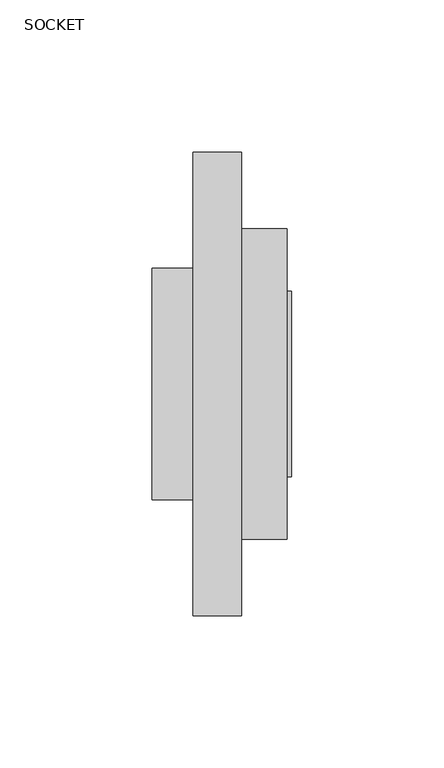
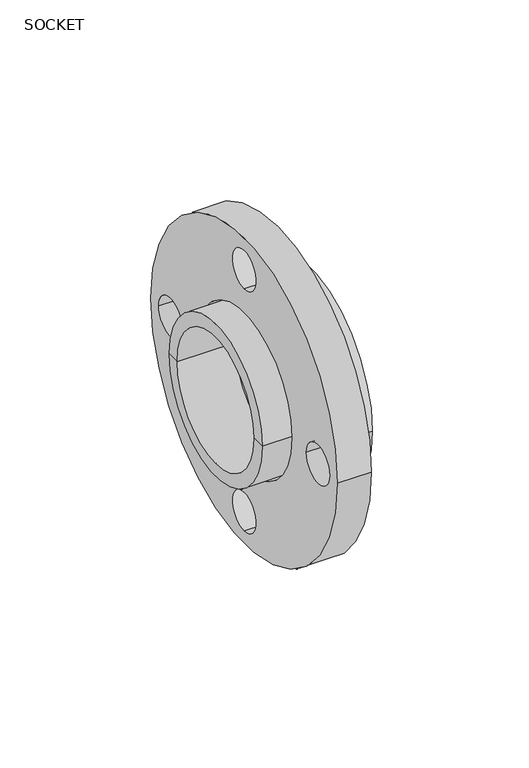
"""IFC4 building model written with IfcOpenShell, lengths in millimetres: valve geometry, Aquatherm - Flange Adapter Socket : SOCKET."""

from ifc_helpers import new_model, si_unit, point, frame, frame_2d, origin, origin_2d, place, context, project, spatial, polyline, circle_curve, trimmed, segment, composite_curve, outline, extrude, source, transform, mapped, element, save
from ifc_brep_helpers import plane_surface, cylinder_surface, revolved_surface, advanced_brep


def socket_e33d789c(model_context):
    return source(origin(), model_context, "Body", "SolidModel", [
        extrude(outline(composite_curve([segment(trimmed(circle_curve(origin_2d(), 76.2), [point((76.2, 0.0))], [point((-76.2, 0.0))], False, "CARTESIAN"), True, "CONTINUOUS"), segment(trimmed(circle_curve(origin_2d(), 76.2), [point((-76.2, 0.0))], [point((76.2, 0.0))], False, "CARTESIAN"), True, "CONTINUOUS")], self_intersect=False), holes=[composite_curve([segment(trimmed(circle_curve(origin_2d(), 38.862), [point((38.862, 0.0))], [point((-38.862, 0.0))], True, "CARTESIAN"), True, "CONTINUOUS"), segment(trimmed(circle_curve(origin_2d(), 38.862), [point((-38.862, 0.0))], [point((38.862, 0.0))], True, "CARTESIAN"), True, "CONTINUOUS")], self_intersect=False), composite_curve([segment(trimmed(circle_curve(frame_2d((-60.325, 0.0)), 9.525), [point((-50.8, 0.0))], [point((-69.85, 0.0))], True, "CARTESIAN"), True, "CONTINUOUS"), segment(trimmed(circle_curve(frame_2d((-60.325, 0.0)), 9.525), [point((-69.85, 0.0))], [point((-50.8, 0.0))], True, "CARTESIAN"), True, "CONTINUOUS")], self_intersect=False), composite_curve([segment(trimmed(circle_curve(frame_2d((0.0, -60.325)), 9.525), [point((0.0, -50.8))], [point((0.0, -69.85))], True, "CARTESIAN"), True, "CONTINUOUS"), segment(trimmed(circle_curve(frame_2d((0.0, -60.325)), 9.525), [point((0.0, -69.85))], [point((0.0, -50.8))], True, "CARTESIAN"), True, "CONTINUOUS")], self_intersect=False), composite_curve([segment(trimmed(circle_curve(frame_2d((0.0, 60.325)), 9.525), [point((0.0, 50.8))], [point((0.0, 69.85))], True, "CARTESIAN"), True, "CONTINUOUS"), segment(trimmed(circle_curve(frame_2d((0.0, 60.325)), 9.525), [point((0.0, 69.85))], [point((0.0, 50.8))], True, "CARTESIAN"), True, "CONTINUOUS")], self_intersect=False), composite_curve([segment(trimmed(circle_curve(frame_2d((60.325, 0.0)), 9.525), [point((50.8, 0.0))], [point((69.85, 0.0))], True, "CARTESIAN"), True, "CONTINUOUS"), segment(trimmed(circle_curve(frame_2d((60.325, 0.0)), 9.525), [point((69.85, 0.0))], [point((50.8, 0.0))], True, "CARTESIAN"), True, "CONTINUOUS")], self_intersect=False)]), frame((-16.002, 0.0, 0.0), z_axis=(1.0, 0.0, 0.0), x_axis=(0.0, 1.0, 0.0)), (0.0, 0.0, 1.0), 16.002),
        advanced_brep(
        [(16.51, -25.4, 0.0), (16.51, -30.48, 0.0), (16.51, 30.48, 0.0), (16.51, 25.4, 0.0), (-2.032, -25.4, 0.0), (-2.032, 25.4, 0.0), (-2.032, -31.496, 0.0), (-2.032, 31.496, 0.0), (-29.464, -31.496, 0.0), (-29.464, 31.496, 0.0), (-29.464, -37.973, 0.0), (-29.464, 37.973, 0.0), (0.0, -37.973, 0.0), (0.0, 37.973, 0.0), (0.0, -51.054, 0.0), (0.0, 51.054, 0.0), (14.986, -51.054, 0.0), (14.986, 51.054, 0.0), (14.986, -30.48, 0.0), (14.986, 30.48, 0.0)],
        [
            (0, 1),
            (1, 2, circle_curve(frame((16.51, 0.0, 0.0), z_axis=(1.0, 0.0, 0.0), x_axis=(0.0, 1.0, 0.0)), 30.48)),
            (2, 3),
            (3, 0, circle_curve(frame((16.51, 0.0, 0.0), z_axis=(-1.0, 0.0, 0.0), x_axis=(0.0, 1.0, 0.0)), 25.4)),
            (2, 1, circle_curve(frame((16.51, 0.0, 0.0), z_axis=(1.0, 0.0, 0.0), x_axis=(0.0, 1.0, 0.0)), 30.48)),
            (0, 3, circle_curve(frame((16.51, 0.0, 0.0), z_axis=(-1.0, 0.0, 0.0), x_axis=(0.0, 1.0, 0.0)), 25.4)),
            (4, 0),
            (3, 5),
            (5, 4, circle_curve(frame((-2.032, 0.0, 0.0), z_axis=(-1.0, 0.0, 0.0), x_axis=(0.0, 1.0, 0.0)), 25.4)),
            (4, 5, circle_curve(frame((-2.032, 0.0, 0.0), z_axis=(-1.0, 0.0, 0.0), x_axis=(0.0, 1.0, 0.0)), 25.4)),
            (6, 4),
            (5, 7),
            (7, 6, circle_curve(frame((-2.032, 0.0, 0.0), z_axis=(-1.0, 0.0, 0.0), x_axis=(0.0, 1.0, 0.0)), 31.496)),
            (6, 7, circle_curve(frame((-2.032, 0.0, 0.0), z_axis=(-1.0, 0.0, 0.0), x_axis=(0.0, 1.0, 0.0)), 31.496)),
            (8, 6),
            (7, 9),
            (9, 8, circle_curve(frame((-29.464, 0.0, 0.0), z_axis=(-1.0, 0.0, 0.0), x_axis=(0.0, 1.0, 0.0)), 31.496)),
            (8, 9, circle_curve(frame((-29.464, 0.0, 0.0), z_axis=(-1.0, 0.0, 0.0), x_axis=(0.0, 1.0, 0.0)), 31.496)),
            (10, 8),
            (9, 11),
            (11, 10, circle_curve(frame((-29.464, 0.0, 0.0), z_axis=(-1.0, 0.0, 0.0), x_axis=(0.0, 1.0, 0.0)), 37.973)),
            (10, 11, circle_curve(frame((-29.464, 0.0, 0.0), z_axis=(-1.0, 0.0, 0.0), x_axis=(0.0, 1.0, 0.0)), 37.973)),
            (12, 10),
            (11, 13),
            (13, 12, circle_curve(frame((0.0, 0.0, 0.0), z_axis=(-1.0, 0.0, 0.0), x_axis=(0.0, 1.0, 0.0)), 37.973)),
            (12, 13, circle_curve(frame((0.0, 0.0, 0.0), z_axis=(-1.0, 0.0, 0.0), x_axis=(0.0, 1.0, 0.0)), 37.973)),
            (14, 12),
            (13, 15),
            (15, 14, circle_curve(frame((0.0, 0.0, 0.0), z_axis=(-1.0, 0.0, 0.0), x_axis=(0.0, 1.0, 0.0)), 51.054)),
            (14, 15, circle_curve(frame((0.0, 0.0, 0.0), z_axis=(-1.0, 0.0, 0.0), x_axis=(0.0, 1.0, 0.0)), 51.054)),
            (16, 14),
            (15, 17),
            (17, 16, circle_curve(frame((14.986, 0.0, 0.0), z_axis=(-1.0, 0.0, 0.0), x_axis=(0.0, 1.0, 0.0)), 51.054)),
            (16, 17, circle_curve(frame((14.986, 0.0, 0.0), z_axis=(-1.0, 0.0, 0.0), x_axis=(0.0, 1.0, 0.0)), 51.054)),
            (18, 16),
            (17, 19),
            (19, 18, circle_curve(frame((14.986, 0.0, 0.0), z_axis=(-1.0, 0.0, 0.0), x_axis=(0.0, 1.0, 0.0)), 30.48)),
            (18, 19, circle_curve(frame((14.986, 0.0, 0.0), z_axis=(-1.0, 0.0, 0.0), x_axis=(0.0, 1.0, 0.0)), 30.48)),
            (1, 18),
            (19, 2),
        ],
        [
            plane_surface(frame((16.51, 0.0, 0.0), z_axis=(1.0, 0.0, 0.0), x_axis=(0.0, 1.0, 0.0))),
            revolved_surface(polyline([(16.50999999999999, 25.4, 0.0), (-2.0319999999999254, 25.4, 0.0)]), (1445.8051939, 0.0, 0.0), (1.0, 0.0, 0.0)),
            plane_surface(frame((-2.032, 0.0, 0.0), z_axis=(-1.0, 0.0, 0.0), x_axis=(0.0, 1.0, 0.0))),
            revolved_surface(polyline([(-2.0319999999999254, 31.496, 0.0), (-29.463999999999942, 31.496, 0.0)]), (1445.8051939, 0.0, 0.0), (1.0, 0.0, 0.0)),
            plane_surface(frame((-29.464, 0.0, 0.0), z_axis=(-1.0, 0.0, 0.0), x_axis=(0.0, 1.0, 0.0))),
            cylinder_surface(frame((1445.8051939, 0.0, 0.0), z_axis=(1.0, 0.0, 0.0), x_axis=(0.0, 1.0, 0.0)), 37.973),
            plane_surface(frame((0.0, 0.0, 0.0), z_axis=(-1.0, 0.0, 0.0), x_axis=(0.0, 1.0, 0.0))),
            cylinder_surface(frame((1445.8051939, 0.0, 0.0), z_axis=(1.0, 0.0, 0.0), x_axis=(0.0, 1.0, 0.0)), 51.054),
            plane_surface(frame((14.986, 0.0, 0.0), z_axis=(1.0, 0.0, 0.0), x_axis=(0.0, 1.0, 0.0))),
            cylinder_surface(frame((1445.8051939, 0.0, 0.0), z_axis=(1.0, 0.0, 0.0), x_axis=(0.0, 1.0, 0.0)), 30.48),
        ],
        [
            (0, [[1, 2, 3, 4]]),
            (0, [[-3, 5, -1, 6]]),
            (1, [[7, -4, 8, 9]]),
            (1, [[-8, -6, -7, 10]]),
            (2, [[11, -9, 12, 13]]),
            (2, [[-12, -10, -11, 14]]),
            (3, [[15, -13, 16, 17]]),
            (3, [[-16, -14, -15, 18]]),
            (4, [[19, -17, 20, 21]]),
            (4, [[-20, -18, -19, 22]]),
            (5, [[23, -21, 24, 25]]),
            (5, [[-24, -22, -23, 26]]),
            (6, [[27, -25, 28, 29]]),
            (6, [[-28, -26, -27, 30]]),
            (7, [[31, -29, 32, 33]]),
            (7, [[-32, -30, -31, 34]]),
            (8, [[35, -33, 36, 37]]),
            (8, [[-36, -34, -35, 38]]),
            (9, [[39, -37, 40, -2]]),
            (9, [[-40, -38, -39, -5]]),
        ],
    ),
    ])


if __name__ == "__main__":
    model = new_model("IFC4")
    model_context = context("Model", 3, world=origin())
    ifc_project = project(units=[si_unit("LENGTHUNIT", "METRE", prefix="MILLI")], contexts=[model_context])
    site = spatial("IfcSite", under=ifc_project)
    building = spatial("IfcBuilding", under=site)
    placement = place(None, origin())
    ifc_socket_shape = socket_e33d789c(model_context)
    element("IfcValve", 1, ObjectType="Aquatherm - Flange Adapter Socket : SOCKET", at=placement, inside=building, context=model_context, shape_type="MappedRepresentation", body=[
        mapped(ifc_socket_shape, transform((0.0, 0.0, 0.0), x_axis=(1.0, 0.0, 0.0), y_axis=(0.0, 1.0, 0.0), z_axis=(0.0, 0.0, 1.0))),
    ])
    save(model, "model.ifc")
